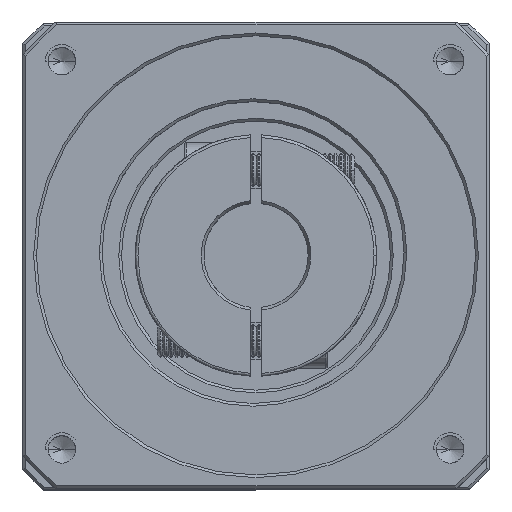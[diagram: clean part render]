
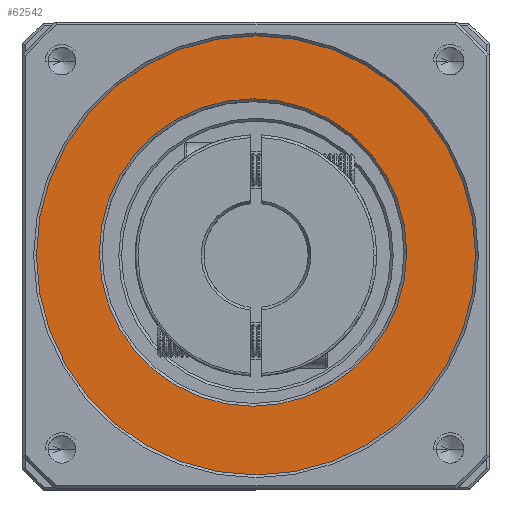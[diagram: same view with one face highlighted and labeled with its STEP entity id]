
A CAD part, top view. The second image highlights one B-rep face of the part: STEP entity #62542.
In plain terms, the highlighted planar face has unit normal (0, 0, 1).
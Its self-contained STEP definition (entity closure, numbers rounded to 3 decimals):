
#350 = EDGE_CURVE ( 'NONE', #48385, #47915, #32681, .T. ) ;
#759 = DIRECTION ( 'NONE',  ( 0., 0., -1. ) ) ;
#4512 = CIRCLE ( 'NONE', #58431, 28. ) ;
#5987 = CIRCLE ( 'NONE', #29320, 40. ) ;
#10364 = CIRCLE ( 'NONE', #114850, 40. ) ;
#21602 = CARTESIAN_POINT ( 'NONE',  ( -93.264, 24.596, 19.207 ) ) ;
#27820 = DIRECTION ( 'NONE',  ( 0., 0., 1. ) ) ;
#29320 = AXIS2_PLACEMENT_3D ( 'NONE', #21602, #84312, #30590 ) ;
#30590 = DIRECTION ( 'NONE',  ( 1., 0., 0. ) ) ;
#32354 = EDGE_CURVE ( 'NONE', #76642, #66291, #5987, .T. ) ;
#32681 = CIRCLE ( 'NONE', #48741, 28. ) ;
#34813 = AXIS2_PLACEMENT_3D ( 'NONE', #81543, #27820, #90556 ) ;
#37474 = EDGE_CURVE ( 'NONE', #47915, #48385, #4512, .T. ) ;
#43041 = DIRECTION ( 'NONE',  ( 0., 0., 1. ) ) ;
#46871 = ORIENTED_EDGE ( 'NONE', *, *, #37474, .T. ) ;
#47915 = VERTEX_POINT ( 'NONE', #66284 ) ;
#48385 = VERTEX_POINT ( 'NONE', #92469 ) ;
#48741 = AXIS2_PLACEMENT_3D ( 'NONE', #104792, #50988, #113765 ) ;
#50988 = DIRECTION ( 'NONE',  ( 0., 0., -1. ) ) ;
#54376 = CARTESIAN_POINT ( 'NONE',  ( -93.806, 25.131, 19.207 ) ) ;
#55385 = ORIENTED_EDGE ( 'NONE', *, *, #350, .T. ) ;
#58431 = AXIS2_PLACEMENT_3D ( 'NONE', #54376, #759, #63379 ) ;
#62542 = ADVANCED_FACE ( 'NONE', ( #111560, #87809 ), #99218, .T. ) ;
#63379 = DIRECTION ( 'NONE',  ( 1., 0., 0. ) ) ;
#66284 = CARTESIAN_POINT ( 'NONE',  ( -121.806, 25.131, 19.207 ) ) ;
#66291 = VERTEX_POINT ( 'NONE', #70775 ) ;
#70775 = CARTESIAN_POINT ( 'NONE',  ( -53.264, 24.596, 19.207 ) ) ;
#70934 = EDGE_LOOP ( 'NONE', ( #55385, #46871 ) ) ;
#76642 = VERTEX_POINT ( 'NONE', #94089 ) ;
#78795 = ORIENTED_EDGE ( 'NONE', *, *, #32354, .T. ) ;
#81543 = CARTESIAN_POINT ( 'NONE',  ( -93.264, 24.596, 19.207 ) ) ;
#84312 = DIRECTION ( 'NONE',  ( 0., 0., 1. ) ) ;
#87809 = FACE_BOUND ( 'NONE', #70934, .T. ) ;
#90556 = DIRECTION ( 'NONE',  ( 1., 0., 0. ) ) ;
#92469 = CARTESIAN_POINT ( 'NONE',  ( -65.806, 25.131, 19.207 ) ) ;
#94089 = CARTESIAN_POINT ( 'NONE',  ( -133.264, 24.596, 19.207 ) ) ;
#96825 = CARTESIAN_POINT ( 'NONE',  ( -93.264, 24.596, 19.207 ) ) ;
#99218 = PLANE ( 'NONE',  #34813 ) ;
#99936 = EDGE_CURVE ( 'NONE', #66291, #76642, #10364, .T. ) ;
#103373 = EDGE_LOOP ( 'NONE', ( #113534, #78795 ) ) ;
#104792 = CARTESIAN_POINT ( 'NONE',  ( -93.806, 25.131, 19.207 ) ) ;
#105819 = DIRECTION ( 'NONE',  ( 1., 0., 0. ) ) ;
#111560 = FACE_OUTER_BOUND ( 'NONE', #103373, .T. ) ;
#113534 = ORIENTED_EDGE ( 'NONE', *, *, #99936, .T. ) ;
#113765 = DIRECTION ( 'NONE',  ( 1., 0., 0. ) ) ;
#114850 = AXIS2_PLACEMENT_3D ( 'NONE', #96825, #43041, #105819 ) ;
